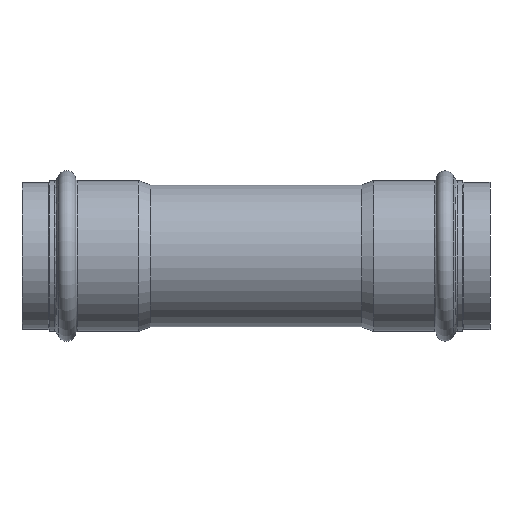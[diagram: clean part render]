
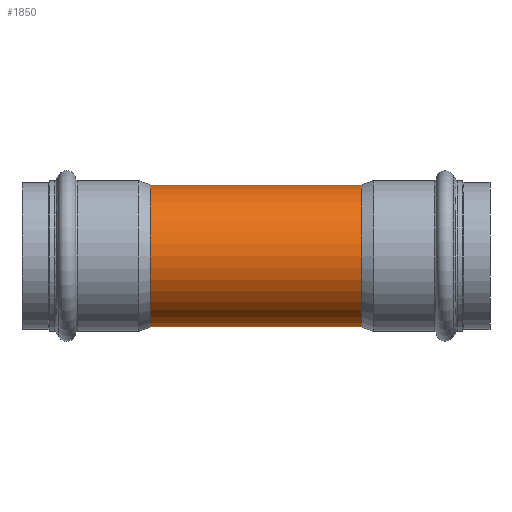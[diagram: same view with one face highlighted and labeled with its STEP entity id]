
A CAD part, front view. The second image highlights one B-rep face of the part: STEP entity #1850.
In plain terms, the highlighted cylindrical face has radius 27 mm (diameter 54 mm), a full revolution.
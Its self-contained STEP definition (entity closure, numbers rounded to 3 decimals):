
#1669=CARTESIAN_POINT('',(0.,22.942,-14.236));
#1670=VERTEX_POINT('',#1669);
#1739=CARTESIAN_POINT('',(0.,22.942,-14.236));
#1740=CARTESIAN_POINT('',(0.,22.942,-14.236));
#1741=CARTESIAN_POINT('',(0.,22.942,-14.236));
#1742=CARTESIAN_POINT('',(0.,22.942,-14.236));
#1743=CARTESIAN_POINT('',(-1.102,22.942,-14.236));
#1744=CARTESIAN_POINT('',(-2.754,23.059,-14.05));
#1745=CARTESIAN_POINT('',(-4.857,23.417,-13.446));
#1746=CARTESIAN_POINT('',(-6.847,23.875,-12.628));
#1747=CARTESIAN_POINT('',(-8.681,24.454,-11.488));
#1748=CARTESIAN_POINT('',(-10.265,25.051,-10.095));
#1749=CARTESIAN_POINT('',(-11.453,25.542,-8.796));
#1750=CARTESIAN_POINT('',(-12.37,25.955,-7.486));
#1751=CARTESIAN_POINT('',(-13.045,26.274,-6.245));
#1752=CARTESIAN_POINT('',(-13.632,26.559,-4.944));
#1753=CARTESIAN_POINT('',(-14.179,26.834,-3.229));
#1754=CARTESIAN_POINT('',(-14.514,27.007,-1.089));
#1755=CARTESIAN_POINT('',(-14.514,27.007,1.086));
#1756=CARTESIAN_POINT('',(-14.181,26.835,3.225));
#1757=CARTESIAN_POINT('',(-13.521,26.503,5.29));
#1758=CARTESIAN_POINT('',(-12.573,26.047,7.195));
#1759=CARTESIAN_POINT('',(-11.349,25.495,8.945));
#1760=CARTESIAN_POINT('',(-10.131,24.997,10.227));
#1761=CARTESIAN_POINT('',(-8.523,24.404,11.586));
#1762=CARTESIAN_POINT('',(-6.999,23.923,12.533));
#1763=CARTESIAN_POINT('',(-5.358,23.531,13.243));
#1764=CARTESIAN_POINT('',(-3.99,23.257,13.719));
#1765=CARTESIAN_POINT('',(-2.207,23.011,14.126));
#1766=CARTESIAN_POINT('',(-0.002,22.907,14.291));
#1767=CARTESIAN_POINT('',(2.202,23.01,14.127));
#1768=CARTESIAN_POINT('',(3.988,23.257,13.72));
#1769=CARTESIAN_POINT('',(5.355,23.53,13.244));
#1770=CARTESIAN_POINT('',(6.669,23.844,12.676));
#1771=CARTESIAN_POINT('',(8.227,24.304,11.787));
#1772=CARTESIAN_POINT('',(9.899,24.902,10.472));
#1773=CARTESIAN_POINT('',(11.349,25.496,8.943));
#1774=CARTESIAN_POINT('',(12.437,25.985,7.39));
#1775=CARTESIAN_POINT('',(13.429,26.457,5.513));
#1776=CARTESIAN_POINT('',(14.142,26.815,3.468));
#1777=CARTESIAN_POINT('',(14.513,27.007,1.09));
#1778=CARTESIAN_POINT('',(14.514,27.007,-1.085));
#1779=CARTESIAN_POINT('',(14.236,26.863,-2.867));
#1780=CARTESIAN_POINT('',(13.852,26.669,-4.255));
#1781=CARTESIAN_POINT('',(13.362,26.426,-5.609));
#1782=CARTESIAN_POINT('',(12.729,26.122,-6.881));
#1783=CARTESIAN_POINT('',(11.962,25.771,-8.07));
#1784=CARTESIAN_POINT('',(11.213,25.443,-9.059));
#1785=CARTESIAN_POINT('',(10.255,25.047,-10.105));
#1786=CARTESIAN_POINT('',(9.064,24.599,-11.149));
#1787=CARTESIAN_POINT('',(7.761,24.163,-12.06));
#1788=CARTESIAN_POINT('',(6.583,23.827,-12.704));
#1789=CARTESIAN_POINT('',(5.6,23.588,-13.14));
#1790=CARTESIAN_POINT('',(4.592,23.372,-13.522));
#1791=CARTESIAN_POINT('',(2.755,23.06,-14.05));
#1792=CARTESIAN_POINT('',(1.102,22.942,-14.236));
#1793=CARTESIAN_POINT('',(0.,22.942,-14.236));
#1794=B_SPLINE_CURVE_WITH_KNOTS('',3,(#1739,#1740,#1741,#1742,#1743,#1744,#1745,#1746,#1747,#1748,#1749,#1750,#1751,#1752,#1753,#1754,#1755,#1756,#1757,#1758,#1759,#1760,#1761,#1762,#1763,#1764,#1765,#1766,#1767,#1768,#1769,#1770,#1771,#1772,#1773,#1774,#1775,#1776,#1777,#1778,#1779,#1780,#1781,#1782,#1783,#1784,#1785,#1786,#1787,#1788,#1789,#1790,#1791,#1792,#1793),.UNSPECIFIED.,.T.,.U.,(4,3,1,1,1,1,1,1,1,1,1,1,1,1,1,1,1,1,1,1,1,1,1,1,1,1,1,1,1,1,1,1,1,1,1,1,1,1,1,1,1,1,1,1,1,1,1,1,1,1,4),(-8.626,-8.626,-8.317,-8.163,-8.009,-7.701,-7.547,-7.393,-7.188,-7.085,-6.983,-6.777,-6.572,-6.366,-6.161,-5.956,-5.75,-5.545,-5.34,-5.237,-4.929,-4.826,-4.724,-4.518,-4.313,-4.107,-3.902,-3.799,-3.697,-3.491,-3.286,-3.081,-2.875,-2.738,-2.464,-2.259,-2.054,-1.848,-1.746,-1.643,-1.438,-1.335,-1.232,-1.078,-0.924,-0.77,-0.616,-0.539,-0.462,-0.308,0.),.UNSPECIFIED.);
#1795=EDGE_CURVE('',#1670,#1670,#1794,.T.);
#1820=CARTESIAN_POINT('',(0.,0.,0.0));
#1821=DIRECTION('',(1.0,0.,0.0));
#1822=DIRECTION('',(0.0,1.0,0.0));
#1823=AXIS2_PLACEMENT_3D('',#1820,#1821,#1822);
#1824=CYLINDRICAL_SURFACE('',#1823,27.);
#1825=CARTESIAN_POINT('',(-40.133,27.,0.0));
#1826=VERTEX_POINT('',#1825);
#1827=CARTESIAN_POINT('',(-40.133,0.,0.0));
#1828=DIRECTION('',(1.0,0.0,0.0));
#1829=DIRECTION('',(0.0,1.0,0.0));
#1830=AXIS2_PLACEMENT_3D('',#1827,#1828,#1829);
#1831=CIRCLE('',#1830,27.0);
#1832=EDGE_CURVE('',#1826,#1826,#1831,.T.);
#1833=ORIENTED_EDGE('',*,*,#1832,.T.);
#1834=EDGE_LOOP('',(#1833));
#1835=FACE_OUTER_BOUND('',#1834,.T.);
#1836=CARTESIAN_POINT('',(40.133,27.,0.0));
#1837=VERTEX_POINT('',#1836);
#1838=CARTESIAN_POINT('',(40.133,0.,0.0));
#1839=DIRECTION('',(1.0,0.0,0.0));
#1840=DIRECTION('',(0.0,1.0,0.0));
#1841=AXIS2_PLACEMENT_3D('',#1838,#1839,#1840);
#1842=CIRCLE('',#1841,27.);
#1843=EDGE_CURVE('',#1837,#1837,#1842,.T.);
#1844=ORIENTED_EDGE('',*,*,#1843,.F.);
#1845=EDGE_LOOP('',(#1844));
#1846=FACE_BOUND('',#1845,.T.);
#1847=ORIENTED_EDGE('',*,*,#1795,.F.);
#1848=EDGE_LOOP('',(#1847));
#1849=FACE_BOUND('',#1848,.T.);
#1850=ADVANCED_FACE('',(#1835,#1846,#1849),#1824,.T.);
